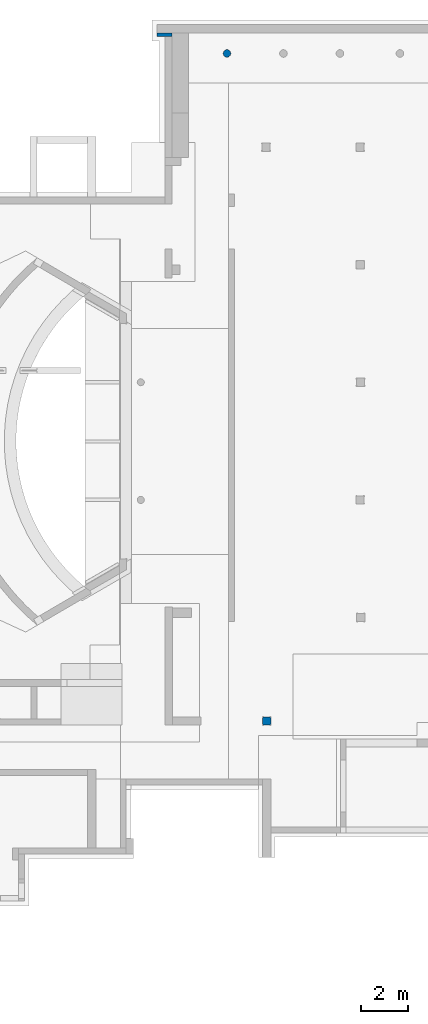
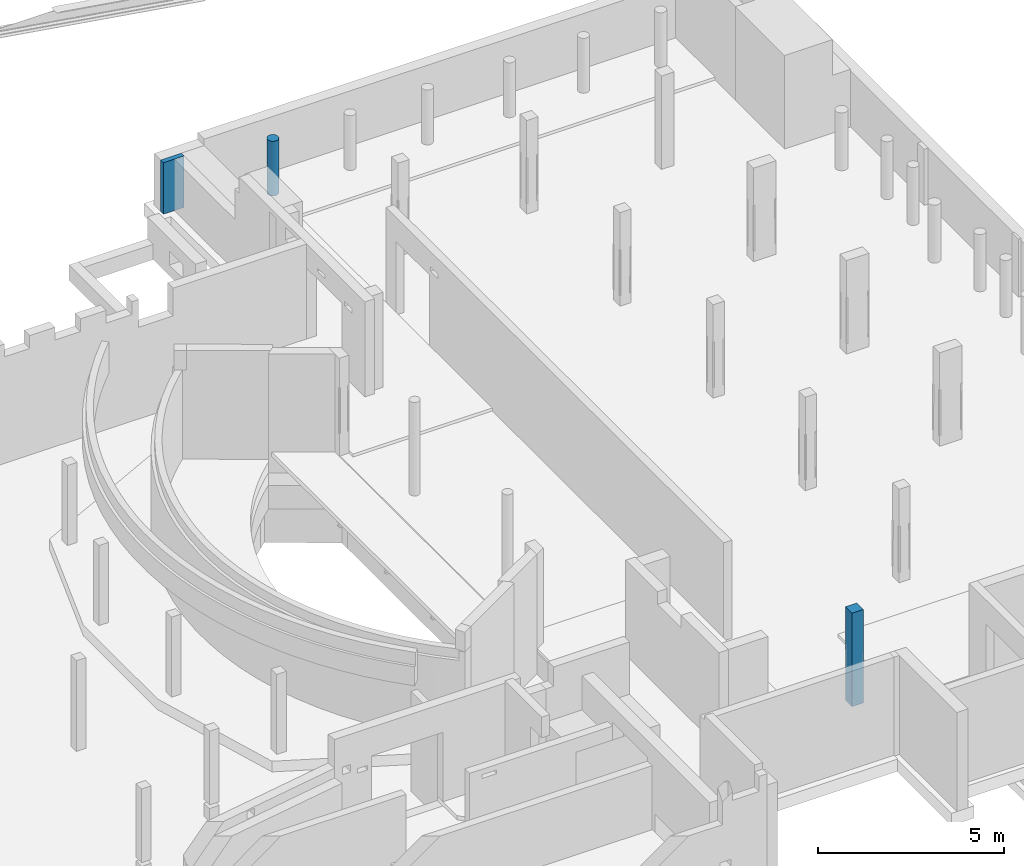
# One storey, part 9 of 42: 3 columns.
"""IFC2X3 building model written with IfcOpenShell, lengths in millimetres."""

from ifc_helpers import new_model, entity, si_unit, converted_unit, derived_unit, direction, frame, frame_2d, origin, origin_2d_with_axis, place, context, subcontext, project, spatial, rectangle, circle, hollow_circle, extrude, source, transform, mapped, material, material_list, type_object, type_shapes, element, save


model = new_model("IFC2X3")

# Units and contexts
model_context = context("Model", 3, precision=0.01, world=origin(), true_north=direction((6.12303176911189e-17, 1.0)))
body_context = subcontext(model_context, "Body", "Model", "MODEL_VIEW")
ifc_project = project(units=[si_unit("LENGTHUNIT", "METRE", prefix="MILLI"), si_unit("AREAUNIT", "SQUARE_METRE", prefix="MILLI"), si_unit("VOLUMEUNIT", "CUBIC_METRE"), converted_unit("PLANEANGLEUNIT", "DEGREE", entity("IfcRatioMeasure", 0.0174532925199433), si_unit("PLANEANGLEUNIT", "RADIAN"), dimensions=[0, 0, 0, 0, 0, 0, 0]), si_unit("MASSUNIT", "GRAM", prefix="KILO"), derived_unit("MASSDENSITYUNIT", [(si_unit("MASSUNIT", "GRAM", prefix="KILO"), 1), (si_unit("LENGTHUNIT", "METRE"), -3)]), derived_unit("MOMENTOFINERTIAUNIT", [(si_unit("LENGTHUNIT", "METRE"), 4)]), si_unit("TIMEUNIT", "SECOND"), si_unit("FREQUENCYUNIT", "HERTZ"), si_unit("THERMODYNAMICTEMPERATUREUNIT", "DEGREE_CELSIUS"), derived_unit("THERMALTRANSMITTANCEUNIT", [(si_unit("MASSUNIT", "GRAM", prefix="KILO"), 1), (si_unit("THERMODYNAMICTEMPERATUREUNIT", "KELVIN"), -1), (si_unit("TIMEUNIT", "SECOND"), -3)]), derived_unit("VOLUMETRICFLOWRATEUNIT", [(si_unit("LENGTHUNIT", "METRE"), 3), (si_unit("TIMEUNIT", "SECOND"), -1)]), si_unit("ELECTRICCURRENTUNIT", "AMPERE"), si_unit("ELECTRICVOLTAGEUNIT", "VOLT"), si_unit("POWERUNIT", "WATT"), si_unit("FORCEUNIT", "NEWTON", prefix="KILO"), si_unit("ILLUMINANCEUNIT", "LUX"), si_unit("LUMINOUSFLUXUNIT", "LUMEN"), si_unit("LUMINOUSINTENSITYUNIT", "CANDELA"), derived_unit("USERDEFINED", [(si_unit("MASSUNIT", "GRAM", prefix="KILO"), -1), (si_unit("LENGTHUNIT", "METRE"), -2), (si_unit("TIMEUNIT", "SECOND"), 3), (si_unit("LUMINOUSFLUXUNIT", "LUMEN"), 1)]), derived_unit("LINEARVELOCITYUNIT", [(si_unit("LENGTHUNIT", "METRE"), 1), (si_unit("TIMEUNIT", "SECOND"), -1)]), si_unit("PRESSUREUNIT", "PASCAL"), derived_unit("USERDEFINED", [(si_unit("LENGTHUNIT", "METRE"), -2), (si_unit("MASSUNIT", "GRAM", prefix="KILO"), 1), (si_unit("TIMEUNIT", "SECOND"), -2)]), derived_unit("LINEARFORCEUNIT", [(si_unit("MASSUNIT", "GRAM", prefix="KILO"), 1), (si_unit("LENGTHUNIT", "METRE"), 1), (si_unit("TIMEUNIT", "SECOND"), -2), (si_unit("LENGTHUNIT", "METRE"), -1)]), derived_unit("PLANARFORCEUNIT", [(si_unit("MASSUNIT", "GRAM", prefix="KILO"), 1), (si_unit("LENGTHUNIT", "METRE"), 1), (si_unit("TIMEUNIT", "SECOND"), -2), (si_unit("LENGTHUNIT", "METRE"), -2)])], contexts=[model_context])

# Site, building, storey
site_placement = place(None, origin())
site = spatial("IfcSite", under=ifc_project, at=site_placement, Name="Theater aan de Parade", CompositionType="ELEMENT")
building_placement = place(site_placement, origin())
building = spatial("IfcBuilding", under=site, at=building_placement, Name="Theater aan de Parade", CompositionType="ELEMENT")
storey_placement = place(building_placement, frame((0.0, 0.0, -3300.0)))
storey = spatial("IfcBuildingStorey", under=building, at=storey_placement, Name="-1 kelder", CompositionType="ELEMENT", Elevation=-3300.0)

# Columns
ifc_material_1 = material(Name="00_PBT_MAT_beton t.p.g.")
column_type_1 = type_object("IfcColumnType", Name="28_PBT_SC_beton_rechthoekig:350x350_bestaand", PredefinedType="COLUMN", material=ifc_material_1)
shared_shape_1 = source(origin(), body_context, "Body", "SweptSolid", [
    extrude(rectangle(XDim=349.999999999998, YDim=350.000000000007, at=origin_2d_with_axis()), frame((74975.0, 20570.0, -2640.0), z_axis=(0.0, 0.0, 1.0), x_axis=(0.0, -1.0, 0.0)), (0.0, 0.0, 1.0), 3070.0000000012),
])
type_shapes(column_type_1, [shared_shape_1])
column_1_placement = place(storey_placement, frame((0.0, 0.0, 3300.0)))
element("IfcColumn", 1, at=column_1_placement, inside=storey, type_object=column_type_1, material=ifc_material_1, Name="28_PBT_SC_beton_rechthoekig:350x350_bestaand", ObjectType="28_PBT_SC_beton_rechthoekig:350x350_bestaand", context=body_context, shape_type="MappedRepresentation", body=[
    mapped(shared_shape_1, transform((0.0, 0.0, 0.0), scale=1.0)),
])
column_type_2 = type_object("IfcColumnType", Name="16_PBT_SC_beton_rechthoekig:640x500_bestaand", PredefinedType="COLUMN", material=ifc_material_1)
shared_shape_2 = source(origin(), body_context, "Body", "SweptSolid", [
    extrude(rectangle(XDim=150.000000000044, YDim=640.00000000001, at=frame_2d((-4.32720526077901e-12, -4.34852154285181e-12), x_axis=(1.0, 0.0))), frame((70620.0, 49745.0, -2640.0), z_axis=(0.0, 0.0, 1.0), x_axis=(0.0, -1.0, 0.0)), (0.0, 0.0, 1.0), 1690.0),
])
type_shapes(column_type_2, [shared_shape_2])
column_2_placement = place(storey_placement, frame((0.0, 0.0, 3300.0)))
element("IfcColumn", 2, at=column_2_placement, inside=storey, type_object=column_type_2, material=ifc_material_1, Name="16_PBT_SC_beton_rechthoekig:640x500_bestaand", ObjectType="16_PBT_SC_beton_rechthoekig:640x500_bestaand", context=body_context, shape_type="MappedRepresentation", body=[
    mapped(shared_shape_2, transform((0.0, 0.0, 0.0), scale=1.0)),
])
ifc_material_2 = material(Name="00_PBT_MAT_staal_S355")
ifc_material_3 = material(Name="00_PBT_MAT_beton t.p.g._C40/50")
ifc_material_list_1 = material_list([ifc_material_2, ifc_material_3])
ifc_material_list_2 = material_list([ifc_material_2, ifc_material_3])
column_type_3 = type_object("IfcColumnType", Name="28_PBT_SC_staal_buis:S355_B323.9x10_GB_C40/50", PredefinedType="COLUMN", material=ifc_material_list_2)
shared_shape_3 = source(origin(), body_context, "Body", "SweptSolid", [
    extrude(hollow_circle(Radius=161.95, WallThickness=9.99999999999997, at=frame_2d((1.77837538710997e-15, -2.97621380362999e-13), x_axis=(1.0, 0.0))), frame((0.0, 0.0, -2540.0), z_axis=(0.0, 0.0, 1.0), x_axis=(-1.0, 0.0, 0.0)), (0.0, 0.0, 1.0), 1800.00000000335),
    extrude(circle(Radius=151.95, at=frame_2d((-6.17986865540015e-15, 1.29141200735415e-12), x_axis=(1.0, 0.0))), frame((0.0, 0.0, -2540.0)), (0.0, 0.0, 1.0), 1800.00000000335),
])
type_shapes(column_type_3, [shared_shape_3])
column_3_placement = place(storey_placement, frame((73285.8127325, 48947.0, 3300.0)))
element("IfcColumn", 3, at=column_3_placement, inside=storey, type_object=column_type_3, material=ifc_material_list_1, Name="28_PBT_SC_staal_buis:S355_B323.9x10_GB_C40/50", ObjectType="28_PBT_SC_staal_buis:S355_B323.9x10_GB_C40/50", context=body_context, shape_type="MappedRepresentation", body=[
    mapped(shared_shape_3, transform((0.0, 0.0, 0.0), scale=1.0)),
])

save(model, "model.ifc")
